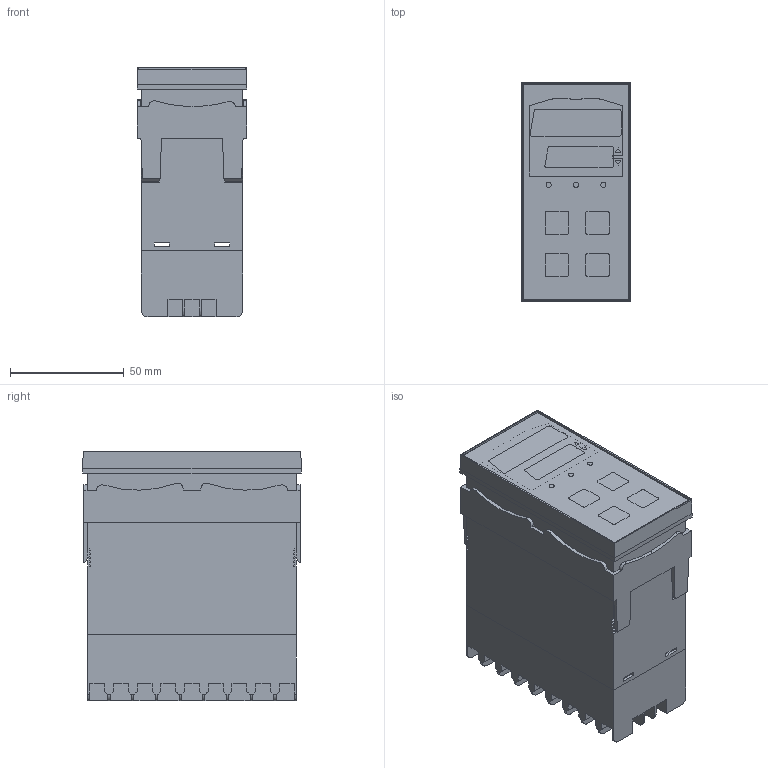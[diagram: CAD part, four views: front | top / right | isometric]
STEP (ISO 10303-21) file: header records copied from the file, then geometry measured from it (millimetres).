
FILE_DESCRIPTION (( 'STEP AP214' ), '1' );
FILE_NAME ('P8100 - CC - 04.STEP', '2016-11-09T19:35:20', ( '' ), ( '' ), 'SwSTEP 2.0', 'SolidWorks 2016', '' );
FILE_SCHEMA (( 'AUTOMOTIVE_DESIGN' ));
Length unit declared in the file: millimetre
Products named in the file (6): 15013 - CC - 01; 18599 - CC - 01; 18601 - CC - 01; P8100 - CC - 04; 18602 - CC - 01; 18600 - CC - 01
Assembly tree (5 placements, depth 2):
  P8100 - CC - 04
    18602 - CC - 01
    18601 - CC - 01
    18599 - CC - 01
    18600 - CC - 01
    15013 - CC - 01
Bounding box: 48 x 96 x 109.7 mm (x, y, z)
Volume: 422817 mm3; surface area: 80756.3 mm2
Topology: 5 solids, 7 shells, 532 faces, 1547 edges, 1052 vertices
Faces by surface type: plane 455, cylinder 51, bspline 26
Entity records: 19211 total; most frequent: CARTESIAN_POINT 4985, ORIENTED_EDGE 3094, DIRECTION 2613, EDGE_CURVE 1547, VECTOR 1325, LINE 1325, VERTEX_POINT 1052, AXIS2_PLACEMENT_3D 644
